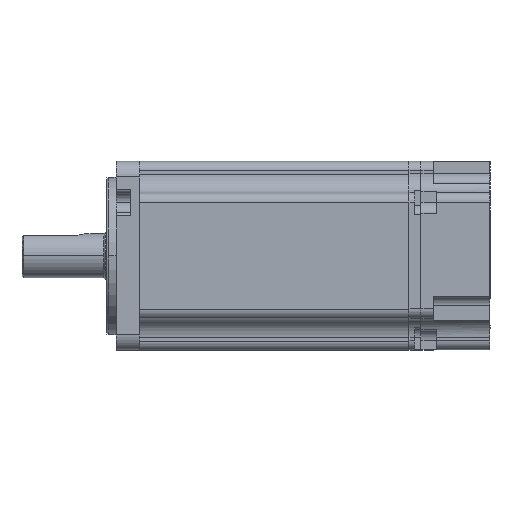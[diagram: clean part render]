
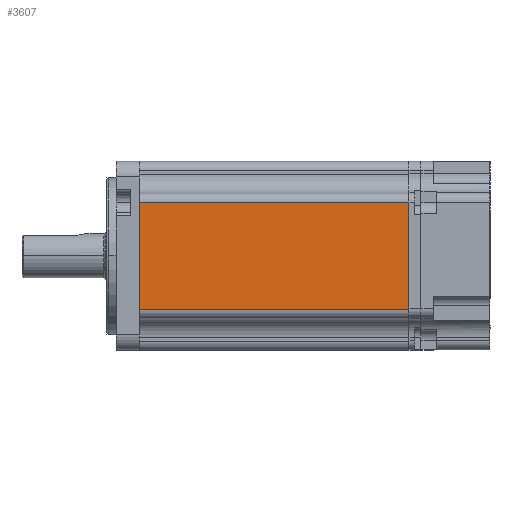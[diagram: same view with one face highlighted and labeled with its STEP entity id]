
A CAD part, top view. The second image highlights one B-rep face of the part: STEP entity #3607.
In plain terms, the highlighted planar face has unit normal (0, 0, 1) as drawn and (0, -1, 0) by its records, which use the part's own axes.
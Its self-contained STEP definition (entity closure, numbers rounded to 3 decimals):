
#919 = CARTESIAN_POINT ( 'NONE',  ( 17., -30.1, -80.2 ) ) ;
#1570 = VECTOR ( 'NONE', #5596, 1000. ) ;
#2188 = VECTOR ( 'NONE', #11807, 1000. ) ;
#2813 = CARTESIAN_POINT ( 'NONE',  ( 17., -30.1, -80.2 ) ) ;
#3607 = ADVANCED_FACE ( 'NONE', ( #10476 ), #19995, .F. ) ;
#4495 = VERTEX_POINT ( 'NONE', #919 ) ;
#5596 = DIRECTION ( 'NONE',  ( 0., 0., 1. ) ) ;
#5813 = DIRECTION ( 'NONE',  ( 0., 1., 0. ) ) ;
#7440 = EDGE_CURVE ( 'NONE', #13548, #10139, #13084, .T. ) ;
#8484 = LINE ( 'NONE', #10452, #2188 ) ;
#8812 = DIRECTION ( 'NONE',  ( -1., 0., 0. ) ) ;
#8912 = CARTESIAN_POINT ( 'NONE',  ( 25.1, -30.1, 16. ) ) ;
#9923 = VECTOR ( 'NONE', #11734, 1000. ) ;
#10008 = EDGE_CURVE ( 'NONE', #14676, #13548, #12042, .T. ) ;
#10139 = VERTEX_POINT ( 'NONE', #11213 ) ;
#10452 = CARTESIAN_POINT ( 'NONE',  ( 0., -30.1, -80.2 ) ) ;
#10476 = FACE_OUTER_BOUND ( 'NONE', #14150, .T. ) ;
#10733 = ORIENTED_EDGE ( 'NONE', *, *, #11796, .T. ) ;
#10759 = CARTESIAN_POINT ( 'NONE',  ( -17.1, -30.1, 5.5 ) ) ;
#11213 = CARTESIAN_POINT ( 'NONE',  ( 17., -30.1, 5.5 ) ) ;
#11309 = ORIENTED_EDGE ( 'NONE', *, *, #14994, .F. ) ;
#11734 = DIRECTION ( 'NONE',  ( 1., 0., 0. ) ) ;
#11796 = EDGE_CURVE ( 'NONE', #4495, #10139, #20190, .T. ) ;
#11807 = DIRECTION ( 'NONE',  ( -1., 0., 0. ) ) ;
#12042 = LINE ( 'NONE', #20115, #20292 ) ;
#12244 = DIRECTION ( 'NONE',  ( 0., 0., 1. ) ) ;
#13084 = LINE ( 'NONE', #16290, #9923 ) ;
#13548 = VERTEX_POINT ( 'NONE', #10759 ) ;
#14150 = EDGE_LOOP ( 'NONE', ( #15057, #15067, #11309, #10733 ) ) ;
#14676 = VERTEX_POINT ( 'NONE', #19996 ) ;
#14994 = EDGE_CURVE ( 'NONE', #4495, #14676, #8484, .T. ) ;
#15057 = ORIENTED_EDGE ( 'NONE', *, *, #7440, .F. ) ;
#15067 = ORIENTED_EDGE ( 'NONE', *, *, #10008, .F. ) ;
#16290 = CARTESIAN_POINT ( 'NONE',  ( 25.1, -30.1, 5.5 ) ) ;
#17236 = AXIS2_PLACEMENT_3D ( 'NONE', #8912, #5813, #8812 ) ;
#19995 = PLANE ( 'NONE',  #17236 ) ;
#19996 = CARTESIAN_POINT ( 'NONE',  ( -17.1, -30.1, -80.2 ) ) ;
#20115 = CARTESIAN_POINT ( 'NONE',  ( -17.1, -30.1, -80.2 ) ) ;
#20190 = LINE ( 'NONE', #2813, #1570 ) ;
#20292 = VECTOR ( 'NONE', #12244, 1000. ) ;
